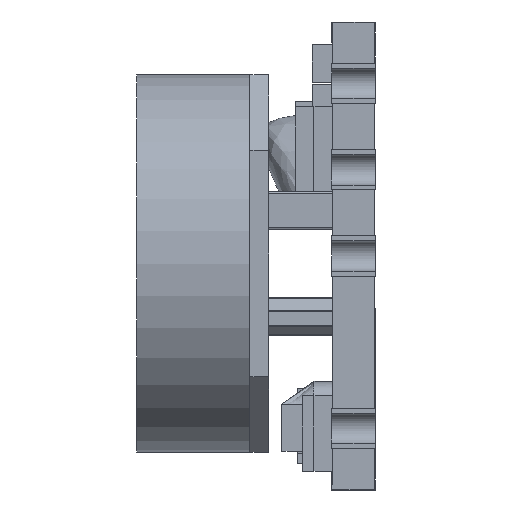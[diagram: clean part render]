
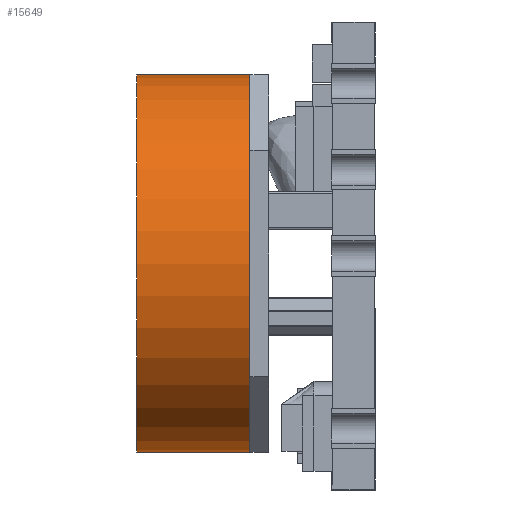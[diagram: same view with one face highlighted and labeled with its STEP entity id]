
A CAD part, left-side view. The second image highlights one B-rep face of the part: STEP entity #15649.
In plain terms, the highlighted cylindrical face has radius 5 mm (diameter 10 mm), a partial arc.
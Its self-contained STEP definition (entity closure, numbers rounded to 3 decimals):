
#168 = AXIS2_PLACEMENT_3D ( 'NONE', #30294, #4526, #11599 ) ;
#252 = VERTEX_POINT ( 'NONE', #11142 ) ;
#1182 = CARTESIAN_POINT ( 'NONE',  ( 0.198, 6.328, -5.202 ) ) ;
#2033 = EDGE_CURVE ( 'NONE', #252, #18227, #9454, .T. ) ;
#2366 = CARTESIAN_POINT ( 'NONE',  ( 0.198, -499997.172, -0.202 ) ) ;
#3469 = EDGE_CURVE ( 'NONE', #25072, #13605, #10002, .T. ) ;
#4526 = DIRECTION ( 'NONE',  ( 0., 1., 0. ) ) ;
#4566 = CARTESIAN_POINT ( 'NONE',  ( 0.198, -499997.172, -5.202 ) ) ;
#4762 = ORIENTED_EDGE ( 'NONE', *, *, #29748, .T. ) ;
#6103 = CARTESIAN_POINT ( 'NONE',  ( -4.802, 3.328, -0.202 ) ) ;
#6640 = VECTOR ( 'NONE', #20662, 1000. ) ;
#9274 = CARTESIAN_POINT ( 'NONE',  ( 0.198, 6.328, -0.202 ) ) ;
#9308 = ORIENTED_EDGE ( 'NONE', *, *, #17725, .T. ) ;
#9454 = CIRCLE ( 'NONE', #29580, 5. ) ;
#9894 = DIRECTION ( 'NONE',  ( 0., 0., 1. ) ) ;
#10002 = CIRCLE ( 'NONE', #168, 5. ) ;
#10761 = CARTESIAN_POINT ( 'NONE',  ( 0.198, 3.328, 4.798 ) ) ;
#11129 = DIRECTION ( 'NONE',  ( 0., 1., 0. ) ) ;
#11142 = CARTESIAN_POINT ( 'NONE',  ( 0.198, 6.328, 4.798 ) ) ;
#11599 = DIRECTION ( 'NONE',  ( 0., 0., 1. ) ) ;
#12165 = LINE ( 'NONE', #14130, #19786 ) ;
#13605 = VERTEX_POINT ( 'NONE', #6103 ) ;
#14008 = FACE_OUTER_BOUND ( 'NONE', #14615, .T. ) ;
#14112 = CARTESIAN_POINT ( 'NONE',  ( 0.198, 3.328, -5.202 ) ) ;
#14130 = CARTESIAN_POINT ( 'NONE',  ( 0.198, -499997.172, 4.798 ) ) ;
#14233 = ORIENTED_EDGE ( 'NONE', *, *, #24585, .F. ) ;
#14615 = EDGE_LOOP ( 'NONE', ( #14233, #19505, #9308, #4762, #26064 ) ) ;
#14627 = VERTEX_POINT ( 'NONE', #10761 ) ;
#15649 = ADVANCED_FACE ( 'NONE', ( #14008 ), #23362, .T. ) ;
#17725 = EDGE_CURVE ( 'NONE', #13605, #14627, #23071, .T. ) ;
#17763 = DIRECTION ( 'NONE',  ( 0., 0., 1. ) ) ;
#18171 = AXIS2_PLACEMENT_3D ( 'NONE', #24966, #24831, #17763 ) ;
#18227 = VERTEX_POINT ( 'NONE', #1182 ) ;
#19128 = AXIS2_PLACEMENT_3D ( 'NONE', #2366, #11129, #27669 ) ;
#19505 = ORIENTED_EDGE ( 'NONE', *, *, #3469, .T. ) ;
#19786 = VECTOR ( 'NONE', #28406, 1000. ) ;
#20662 = DIRECTION ( 'NONE',  ( 0., 1., 0. ) ) ;
#22678 = LINE ( 'NONE', #4566, #6640 ) ;
#23071 = CIRCLE ( 'NONE', #18171, 5. ) ;
#23362 = CYLINDRICAL_SURFACE ( 'NONE', #19128, 5. ) ;
#23852 = DIRECTION ( 'NONE',  ( 0., -1., 0. ) ) ;
#24585 = EDGE_CURVE ( 'NONE', #25072, #18227, #22678, .T. ) ;
#24831 = DIRECTION ( 'NONE',  ( 0., 1., 0. ) ) ;
#24966 = CARTESIAN_POINT ( 'NONE',  ( 0.198, 3.328, -0.202 ) ) ;
#25072 = VERTEX_POINT ( 'NONE', #14112 ) ;
#26064 = ORIENTED_EDGE ( 'NONE', *, *, #2033, .T. ) ;
#27669 = DIRECTION ( 'NONE',  ( 0., 0., 1. ) ) ;
#28406 = DIRECTION ( 'NONE',  ( 0., 1., 0. ) ) ;
#29580 = AXIS2_PLACEMENT_3D ( 'NONE', #9274, #23852, #9894 ) ;
#29748 = EDGE_CURVE ( 'NONE', #14627, #252, #12165, .T. ) ;
#30294 = CARTESIAN_POINT ( 'NONE',  ( 0.198, 3.328, -0.202 ) ) ;
